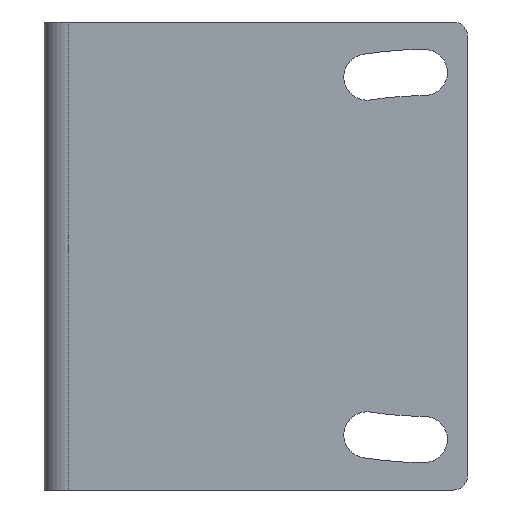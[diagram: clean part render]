
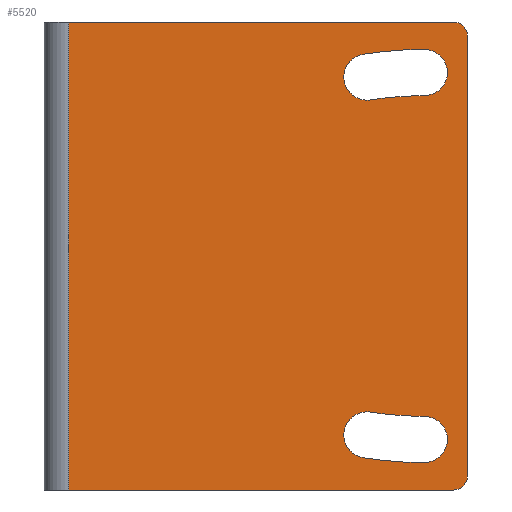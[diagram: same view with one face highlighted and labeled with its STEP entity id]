
A CAD part, left-side view. The second image highlights one B-rep face of the part: STEP entity #5520.
In plain terms, the highlighted planar face has unit normal (-1, 0, 0).
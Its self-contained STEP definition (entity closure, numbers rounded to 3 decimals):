
#520=CARTESIAN_POINT('',(1.927,85.111,0.));
#530=VERTEX_POINT('',#520);
#560=CARTESIAN_POINT('',(1.927,54.411,0.));
#570=DIRECTION('',(0.,1.,0.));
#580=VECTOR('',#570,1.);
#590=LINE('',#560,#580);
#600=CARTESIAN_POINT('',(1.927,58.511,0.));
#610=VERTEX_POINT('',#600);
#620=EDGE_CURVE('',#610,#530,#590,.T.);
#2040=CARTESIAN_POINT('',(1.927,58.511,32.4));
#2050=VERTEX_POINT('',#2040);
#2080=CARTESIAN_POINT('',(1.927,54.411,32.4));
#2090=DIRECTION('',(0.,1.,0.));
#2100=VECTOR('',#2090,1.);
#2110=LINE('',#2080,#2100);
#2120=CARTESIAN_POINT('',(1.927,85.111,32.4));
#2130=VERTEX_POINT('',#2120);
#2140=EDGE_CURVE('',#2050,#2130,#2110,.T.);
#4240=CARTESIAN_POINT('',(1.927,85.111,0.));
#4250=DIRECTION('',(0.,0.,1.));
#4260=VECTOR('',#4250,1.);
#4270=LINE('',#4240,#4260);
#4280=EDGE_CURVE('',#530,#2130,#4270,.T.);
#4340=CARTESIAN_POINT('',(1.927,54.411,0.));
#4350=DIRECTION('',(-1.,0.,0.));
#4360=DIRECTION('',(0.,1.,0.));
#4370=AXIS2_PLACEMENT_3D('',#4340,#4350,#4360);
#4380=PLANE('',#4370);
#4390=CARTESIAN_POINT('',(1.927,64.485,28.587));
#4400=DIRECTION('',(1.,0.,0.));
#4410=DIRECTION('',(0.,0.,-1.));
#4420=AXIS2_PLACEMENT_3D('',#4390,#4400,#4410);
#4430=CIRCLE('',#4420,1.6);
#4440=CARTESIAN_POINT('',(1.927,64.234,27.007));
#4450=VERTEX_POINT('',#4440);
#4460=CARTESIAN_POINT('',(1.927,64.485,26.987));
#4470=VERTEX_POINT('',#4460);
#4480=EDGE_CURVE('',#4450,#4470,#4430,.T.);
#4490=ORIENTED_EDGE('',*,*,#4480,.T.);
#4500=CARTESIAN_POINT('',(1.927,60.511,3.5));
#4510=DIRECTION('',(1.,0.,0.));
#4520=DIRECTION('',(0.,0.,-1.));
#4530=AXIS2_PLACEMENT_3D('',#4500,#4510,#4520);
#4540=CIRCLE('',#4530,23.8);
#4550=CARTESIAN_POINT('',(1.927,60.511,27.3));
#4560=VERTEX_POINT('',#4550);
#4570=EDGE_CURVE('',#4450,#4560,#4540,.T.);
#4580=ORIENTED_EDGE('',*,*,#4570,.F.);
#4590=CARTESIAN_POINT('',(1.927,60.511,28.9));
#4600=DIRECTION('',(1.,0.,0.));
#4610=DIRECTION('',(0.,0.,-1.));
#4620=AXIS2_PLACEMENT_3D('',#4590,#4600,#4610);
#4630=CIRCLE('',#4620,1.6);
#4640=CARTESIAN_POINT('',(1.927,60.511,30.5));
#4650=VERTEX_POINT('',#4640);
#4660=EDGE_CURVE('',#4650,#4560,#4630,.T.);
#4670=ORIENTED_EDGE('',*,*,#4660,.T.);
#4680=CARTESIAN_POINT('',(1.927,60.511,3.5));
#4690=DIRECTION('',(1.,0.,0.));
#4700=DIRECTION('',(0.,0.,-1.));
#4710=AXIS2_PLACEMENT_3D('',#4680,#4690,#4700);
#4720=CIRCLE('',#4710,27.);
#4730=CARTESIAN_POINT('',(1.927,64.735,30.168));
#4740=VERTEX_POINT('',#4730);
#4750=EDGE_CURVE('',#4740,#4650,#4720,.T.);
#4760=ORIENTED_EDGE('',*,*,#4750,.T.);
#4770=EDGE_CURVE('',#4470,#4740,#4430,.T.);
#4780=ORIENTED_EDGE('',*,*,#4770,.T.);
#4790=EDGE_LOOP('',(#4780,#4760,#4670,#4580,#4490));
#4800=FACE_BOUND('',#4790,.T.);
#4810=CARTESIAN_POINT('',(1.927,64.485,3.813));
#4820=DIRECTION('',(1.,0.,0.));
#4830=DIRECTION('',(0.,0.,-1.));
#4840=AXIS2_PLACEMENT_3D('',#4810,#4820,#4830);
#4850=CIRCLE('',#4840,1.6);
#4860=CARTESIAN_POINT('',(1.927,64.485,5.413));
#4870=VERTEX_POINT('',#4860);
#4880=CARTESIAN_POINT('',(1.927,64.234,5.393));
#4890=VERTEX_POINT('',#4880);
#4900=EDGE_CURVE('',#4870,#4890,#4850,.T.);
#4910=ORIENTED_EDGE('',*,*,#4900,.T.);
#4920=CARTESIAN_POINT('',(1.927,64.735,2.232));
#4930=VERTEX_POINT('',#4920);
#4940=EDGE_CURVE('',#4930,#4870,#4850,.T.);
#4950=ORIENTED_EDGE('',*,*,#4940,.T.);
#4960=CARTESIAN_POINT('',(1.927,60.511,28.9));
#4970=DIRECTION('',(1.,0.,0.));
#4980=DIRECTION('',(0.,0.,-1.));
#4990=AXIS2_PLACEMENT_3D('',#4960,#4970,#4980);
#5000=CIRCLE('',#4990,27.);
#5010=CARTESIAN_POINT('',(1.927,60.511,1.9));
#5020=VERTEX_POINT('',#5010);
#5030=EDGE_CURVE('',#5020,#4930,#5000,.T.);
#5040=ORIENTED_EDGE('',*,*,#5030,.T.);
#5050=CARTESIAN_POINT('',(1.927,60.511,3.5));
#5060=DIRECTION('',(1.,0.,0.));
#5070=DIRECTION('',(0.,0.,-1.));
#5080=AXIS2_PLACEMENT_3D('',#5050,#5060,#5070);
#5090=CIRCLE('',#5080,1.6);
#5100=CARTESIAN_POINT('',(1.927,60.511,5.1));
#5110=VERTEX_POINT('',#5100);
#5120=EDGE_CURVE('',#5110,#5020,#5090,.T.);
#5130=ORIENTED_EDGE('',*,*,#5120,.T.);
#5140=CARTESIAN_POINT('',(1.927,60.511,28.9));
#5150=DIRECTION('',(1.,0.,0.));
#5160=DIRECTION('',(0.,0.,-1.));
#5170=AXIS2_PLACEMENT_3D('',#5140,#5150,#5160);
#5180=CIRCLE('',#5170,23.8);
#5190=EDGE_CURVE('',#5110,#4890,#5180,.T.);
#5200=ORIENTED_EDGE('',*,*,#5190,.F.);
#5210=EDGE_LOOP('',(#5200,#5130,#5040,#4950,#4910));
#5220=FACE_BOUND('',#5210,.T.);
#5230=ORIENTED_EDGE('',*,*,#4280,.F.);
#5240=ORIENTED_EDGE('',*,*,#2140,.T.);
#5250=CARTESIAN_POINT('',(1.927,58.511,31.4));
#5260=DIRECTION('',(-1.,0.,0.));
#5270=DIRECTION('',(0.,1.,0.));
#5280=AXIS2_PLACEMENT_3D('',#5250,#5260,#5270);
#5290=CIRCLE('',#5280,1.);
#5300=CARTESIAN_POINT('',(1.927,57.511,31.4));
#5310=VERTEX_POINT('',#5300);
#5320=EDGE_CURVE('',#5310,#2050,#5290,.T.);
#5330=ORIENTED_EDGE('',*,*,#5320,.T.);
#5340=CARTESIAN_POINT('',(1.927,57.511,0.));
#5350=DIRECTION('',(0.,0.,-1.));
#5360=VECTOR('',#5350,1.);
#5370=LINE('',#5340,#5360);
#5380=CARTESIAN_POINT('',(1.927,57.511,1.));
#5390=VERTEX_POINT('',#5380);
#5400=EDGE_CURVE('',#5310,#5390,#5370,.T.);
#5410=ORIENTED_EDGE('',*,*,#5400,.F.);
#5420=CARTESIAN_POINT('',(1.927,58.511,1.));
#5430=DIRECTION('',(-1.,0.,0.));
#5440=DIRECTION('',(0.,1.,0.));
#5450=AXIS2_PLACEMENT_3D('',#5420,#5430,#5440);
#5460=CIRCLE('',#5450,1.);
#5470=EDGE_CURVE('',#610,#5390,#5460,.T.);
#5480=ORIENTED_EDGE('',*,*,#5470,.T.);
#5490=ORIENTED_EDGE('',*,*,#620,.F.);
#5500=EDGE_LOOP('',(#5490,#5480,#5410,#5330,#5240,#5230));
#5510=FACE_OUTER_BOUND('',#5500,.T.);
#5520=ADVANCED_FACE('',(#4800,#5220,#5510),#4380,.T.);
